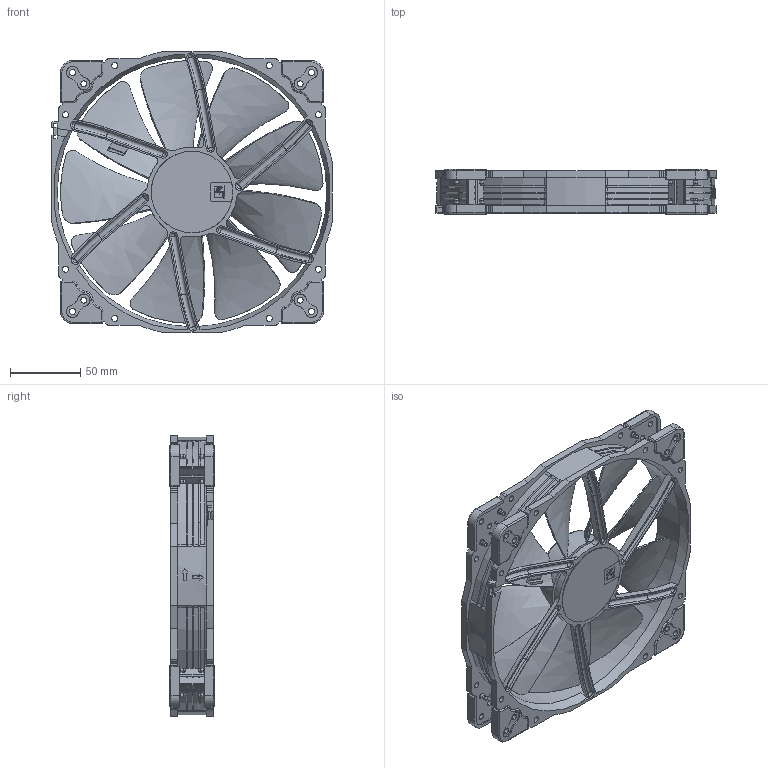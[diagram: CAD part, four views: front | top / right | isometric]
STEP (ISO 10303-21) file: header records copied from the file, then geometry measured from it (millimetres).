
FILE_DESCRIPTION(/* description */ ('140mm Desk Fan'),/* implementation_level */ '2;1');
FILE_NAME(/* name */ 'NF-A20_chromax_Public-CAD',/* time_stamp */ '2026-04-10T13:14:44+02:00',/* author */ ('Andreas'),/* organization */ ('Rascom'),/* preprocessor_version */ 'ST-DEVELOPER v18.102',/* originating_system */ 'Solid Edge',/* authorisation */ 'Unknown');
FILE_SCHEMA (('AUTOMOTIVE_DESIGN {1 0 10303 214 3 1 1}'));
Length unit declared in the file: millimetre
Products named in the file (6): NF-A20_chromax_Public-CAD; NF-A20_Public-CAD; NF-A20_Frame_Public; NF-A20_Impeller_Public; NA-AVP6; NF-A20_Lablel-Simple-JPEG-Chromax
Assembly tree (12 placements, depth 3):
  NF-A20_chromax_Public-CAD
    NF-A20_Public-CAD
      NF-A20_Frame_Public
      NF-A20_Impeller_Public
      NA-AVP6  x8
    NF-A20_Lablel-Simple-JPEG-Chromax
Bounding box: 200 x 32 x 200 mm (x, y, z)
Volume: 257758.3 mm3; surface area: 171515.7 mm2
Topology: 11 solids, 11 shells, 1606 faces, 4464 edges, 2848 vertices
Faces by surface type: cylinder 840, plane 407, torus 129, cone 104, bspline 66, sphere 60
Full cylindrical faces by diameter (mm): 58 x1, 62.5 x1, 192 x1
Entity records: 47122 total; most frequent: CARTESIAN_POINT 19646, ORIENTED_EDGE 6454, DIRECTION 4348, EDGE_CURVE 3227, VERTEX_POINT 2145, AXIS2_PLACEMENT_3D 1670, B_SPLINE_CURVE_WITH_KNOTS 1577, EDGE_LOOP 1296
